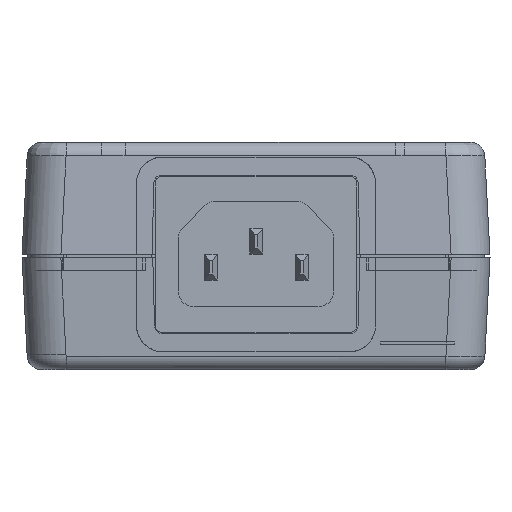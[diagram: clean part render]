
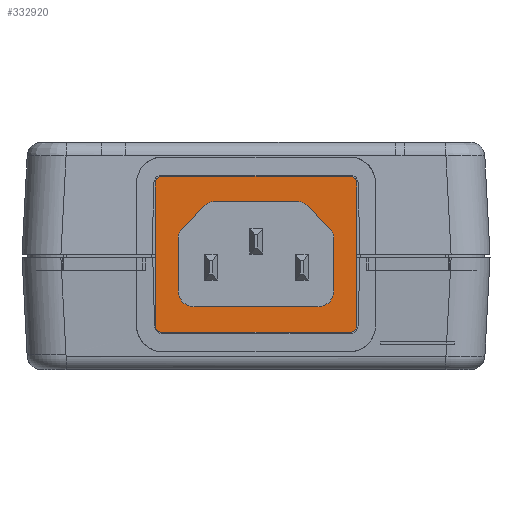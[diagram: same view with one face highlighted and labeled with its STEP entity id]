
A CAD part, left-side view. The second image highlights one B-rep face of the part: STEP entity #332920.
In plain terms, the highlighted planar face has unit normal (-1, 0, 0).
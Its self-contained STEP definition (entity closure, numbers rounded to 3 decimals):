
#330790=CARTESIAN_POINT('',(47.523,115.029,
41.));
#330800=VERTEX_POINT('',#330790);
#330830=CARTESIAN_POINT('',(47.523,115.029,
30.));
#330840=DIRECTION('',(0.,0.,-1.));
#330850=VECTOR('',#330840,1.);
#330860=LINE('',#330830,#330850);
#330870=CARTESIAN_POINT('',(47.523,115.029,
19.));
#330880=VERTEX_POINT('',#330870);
#330890=EDGE_CURVE('',#330800,#330880,#330860,.T.);
#331100=CARTESIAN_POINT('',(47.523,85.029,
42.));
#331110=VERTEX_POINT('',#331100);
#331140=CARTESIAN_POINT('',(47.523,99.529,
42.));
#331150=DIRECTION('',(0.,-1.,0.));
#331160=VECTOR('',#331150,1.);
#331170=LINE('',#331140,#331160);
#331180=CARTESIAN_POINT('',(47.523,114.029,
42.));
#331190=VERTEX_POINT('',#331180);
#331200=EDGE_CURVE('',#331190,#331110,#331170,.T.);
#331310=CARTESIAN_POINT('',(47.523,99.529,
30.));
#331320=DIRECTION('',(-1.,0.,0.));
#331330=DIRECTION('',(0.,-1.,0.));
#331340=AXIS2_PLACEMENT_3D('',#331310,#331320,#331330);
#331350=PLANE('',#331340);
#331360=CARTESIAN_POINT('',(47.523,92.925,
36.3));
#331370=DIRECTION('',(1.,0.,0.));
#331380=DIRECTION('',(0.,0.,1.));
#331390=AXIS2_PLACEMENT_3D('',#331360,#331370,#331380);
#331400=CIRCLE('',#331390,1.8);
#331410=CARTESIAN_POINT('',(47.523,92.925,
38.1));
#331420=VERTEX_POINT('',#331410);
#331430=CARTESIAN_POINT('',(47.523,91.631,
37.55));
#331440=VERTEX_POINT('',#331430);
#331450=EDGE_CURVE('',#331420,#331440,#331400,.T.);
#331460=ORIENTED_EDGE('',*,*,#331450,.T.);
#331470=CARTESIAN_POINT('',(47.523,99.529,
38.1));
#331480=DIRECTION('',(0.,1.,0.));
#331490=VECTOR('',#331480,1.);
#331500=LINE('',#331470,#331490);
#331510=CARTESIAN_POINT('',(47.523,106.133,
38.1));
#331520=VERTEX_POINT('',#331510);
#331530=EDGE_CURVE('',#331420,#331520,#331500,.T.);
#331540=ORIENTED_EDGE('',*,*,#331530,.F.);
#331550=CARTESIAN_POINT('',(47.523,106.133,
36.3));
#331560=DIRECTION('',(1.,0.,0.));
#331570=DIRECTION('',(0.,0.719,
0.695));
#331580=AXIS2_PLACEMENT_3D('',#331550,#331560,#331570);
#331590=CIRCLE('',#331580,1.8);
#331600=CARTESIAN_POINT('',(47.523,107.428,
37.55));
#331610=VERTEX_POINT('',#331600);
#331620=EDGE_CURVE('',#331610,#331520,#331590,.T.);
#331630=ORIENTED_EDGE('',*,*,#331620,.T.);
#331640=CARTESIAN_POINT('',(47.523,114.72,
30.));
#331650=DIRECTION('',(0.,0.695,
-0.719));
#331660=VECTOR('',#331650,1.);
#331670=LINE('',#331640,#331660);
#331680=CARTESIAN_POINT('',(47.523,111.024,
33.827));
#331690=VERTEX_POINT('',#331680);
#331700=EDGE_CURVE('',#331610,#331690,#331670,.T.);
#331710=ORIENTED_EDGE('',*,*,#331700,.F.);
#331720=CARTESIAN_POINT('',(47.523,109.729,
32.576));
#331730=DIRECTION('',(-1.,0.,0.));
#331740=DIRECTION('',(0.,-1.,0.));
#331750=AXIS2_PLACEMENT_3D('',#331720,#331730,#331740);
#331760=CIRCLE('',#331750,1.8);
#331770=CARTESIAN_POINT('',(47.523,111.529,
32.576));
#331780=VERTEX_POINT('',#331770);
#331790=EDGE_CURVE('',#331690,#331780,#331760,.T.);
#331800=ORIENTED_EDGE('',*,*,#331790,.F.);
#331810=CARTESIAN_POINT('',(47.523,111.529,
30.));
#331820=DIRECTION('',(0.,0.,-1.));
#331830=VECTOR('',#331820,1.);
#331840=LINE('',#331810,#331830);
#331850=CARTESIAN_POINT('',(47.523,111.529,24.4));
#331860=VERTEX_POINT('',#331850);
#331870=EDGE_CURVE('',#331780,#331860,#331840,.T.);
#331880=ORIENTED_EDGE('',*,*,#331870,.F.);
#331890=CARTESIAN_POINT('',(47.523,109.029,24.4));
#331900=DIRECTION('',(-1.,0.,0.));
#331910=DIRECTION('',(0.,-1.,0.));
#331920=AXIS2_PLACEMENT_3D('',#331890,#331900,#331910);
#331930=CIRCLE('',#331920,2.5);
#331940=CARTESIAN_POINT('',(47.523,109.029,21.9));
#331950=VERTEX_POINT('',#331940);
#331960=EDGE_CURVE('',#331860,#331950,#331930,.T.);
#331970=ORIENTED_EDGE('',*,*,#331960,.F.);
#331980=CARTESIAN_POINT('',(47.523,99.529,21.9));
#331990=DIRECTION('',(0.,-1.,0.));
#332000=VECTOR('',#331990,1.);
#332010=LINE('',#331980,#332000);
#332020=CARTESIAN_POINT('',(47.523,90.029,21.9));
#332030=VERTEX_POINT('',#332020);
#332040=EDGE_CURVE('',#331950,#332030,#332010,.T.);
#332050=ORIENTED_EDGE('',*,*,#332040,.F.);
#332060=CARTESIAN_POINT('',(47.523,90.029,24.4));
#332070=DIRECTION('',(-1.,0.,0.));
#332080=DIRECTION('',(0.,-1.,0.));
#332090=AXIS2_PLACEMENT_3D('',#332060,#332070,#332080);
#332100=CIRCLE('',#332090,2.5);
#332110=CARTESIAN_POINT('',(47.523,87.529,24.4));
#332120=VERTEX_POINT('',#332110);
#332130=EDGE_CURVE('',#332030,#332120,#332100,.T.);
#332140=ORIENTED_EDGE('',*,*,#332130,.F.);
#332150=CARTESIAN_POINT('',(47.523,87.529,
30.));
#332160=DIRECTION('',(0.,0.,1.));
#332170=VECTOR('',#332160,1.);
#332180=LINE('',#332150,#332170);
#332190=CARTESIAN_POINT('',(47.523,87.529,
32.576));
#332200=VERTEX_POINT('',#332190);
#332210=EDGE_CURVE('',#332120,#332200,#332180,.T.);
#332220=ORIENTED_EDGE('',*,*,#332210,.F.);
#332230=CARTESIAN_POINT('',(47.523,89.329,
32.576));
#332240=DIRECTION('',(1.,0.,0.));
#332250=DIRECTION('',(0.,1.,0.));
#332260=AXIS2_PLACEMENT_3D('',#332230,#332240,#332250);
#332270=CIRCLE('',#332260,1.8);
#332280=CARTESIAN_POINT('',(47.523,88.035,
33.827));
#332290=VERTEX_POINT('',#332280);
#332300=EDGE_CURVE('',#332290,#332200,#332270,.T.);
#332310=ORIENTED_EDGE('',*,*,#332300,.T.);
#332320=CARTESIAN_POINT('',(47.523,84.339,
30.));
#332330=DIRECTION('',(0.,0.695,
0.719));
#332340=VECTOR('',#332330,1.);
#332350=LINE('',#332320,#332340);
#332360=EDGE_CURVE('',#332290,#331440,#332350,.T.);
#332370=ORIENTED_EDGE('',*,*,#332360,.F.);
#332380=EDGE_LOOP('',(#332370,#332310,#332220,#332140,#332050,#331970,
#331880,#331800,#331710,#331630,#331540,#331460));
#332390=FACE_BOUND('',#332380,.T.);
#332400=CARTESIAN_POINT('',(47.523,114.029,
41.));
#332410=DIRECTION('',(-1.,0.,0.));
#332420=DIRECTION('',(0.,0.,1.));
#332430=AXIS2_PLACEMENT_3D('',#332400,#332410,#332420);
#332440=CIRCLE('',#332430,1.);
#332450=EDGE_CURVE('',#331190,#330800,#332440,.T.);
#332460=ORIENTED_EDGE('',*,*,#332450,.T.);
#332470=ORIENTED_EDGE('',*,*,#331200,.F.);
#332480=CARTESIAN_POINT('',(47.523,85.029,
41.));
#332490=DIRECTION('',(-1.,0.,0.));
#332500=DIRECTION('',(0.,0.,1.));
#332510=AXIS2_PLACEMENT_3D('',#332480,#332490,#332500);
#332520=CIRCLE('',#332510,1.);
#332530=CARTESIAN_POINT('',(47.523,84.029,
41.));
#332540=VERTEX_POINT('',#332530);
#332550=EDGE_CURVE('',#332540,#331110,#332520,.T.);
#332560=ORIENTED_EDGE('',*,*,#332550,.T.);
#332570=CARTESIAN_POINT('',(47.523,84.029,
30.));
#332580=DIRECTION('',(0.,0.,1.));
#332590=VECTOR('',#332580,1.);
#332600=LINE('',#332570,#332590);
#332610=CARTESIAN_POINT('',(47.523,84.029,
19.));
#332620=VERTEX_POINT('',#332610);
#332630=EDGE_CURVE('',#332620,#332540,#332600,.T.);
#332640=ORIENTED_EDGE('',*,*,#332630,.T.);
#332650=CARTESIAN_POINT('',(47.523,85.029,
19.));
#332660=DIRECTION('',(-1.,0.,0.));
#332670=DIRECTION('',(0.,0.,1.));
#332680=AXIS2_PLACEMENT_3D('',#332650,#332660,#332670);
#332690=CIRCLE('',#332680,1.);
#332700=CARTESIAN_POINT('',(47.523,85.029,
18.));
#332710=VERTEX_POINT('',#332700);
#332720=EDGE_CURVE('',#332710,#332620,#332690,.T.);
#332730=ORIENTED_EDGE('',*,*,#332720,.T.);
#332740=CARTESIAN_POINT('',(47.523,99.529,
18.));
#332750=DIRECTION('',(0.,1.,0.));
#332760=VECTOR('',#332750,1.);
#332770=LINE('',#332740,#332760);
#332780=CARTESIAN_POINT('',(47.523,114.029,
18.));
#332790=VERTEX_POINT('',#332780);
#332800=EDGE_CURVE('',#332710,#332790,#332770,.T.);
#332810=ORIENTED_EDGE('',*,*,#332800,.F.);
#332820=CARTESIAN_POINT('',(47.523,114.029,
19.));
#332830=DIRECTION('',(-1.,0.,0.));
#332840=DIRECTION('',(0.,0.,1.));
#332850=AXIS2_PLACEMENT_3D('',#332820,#332830,#332840);
#332860=CIRCLE('',#332850,1.);
#332870=EDGE_CURVE('',#330880,#332790,#332860,.T.);
#332880=ORIENTED_EDGE('',*,*,#332870,.T.);
#332890=ORIENTED_EDGE('',*,*,#330890,.T.);
#332900=EDGE_LOOP('',(#332890,#332880,#332810,#332730,#332640,#332560,
#332470,#332460));
#332910=FACE_OUTER_BOUND('',#332900,.T.);
#332920=ADVANCED_FACE('',(#332390,#332910),#331350,.T.);
